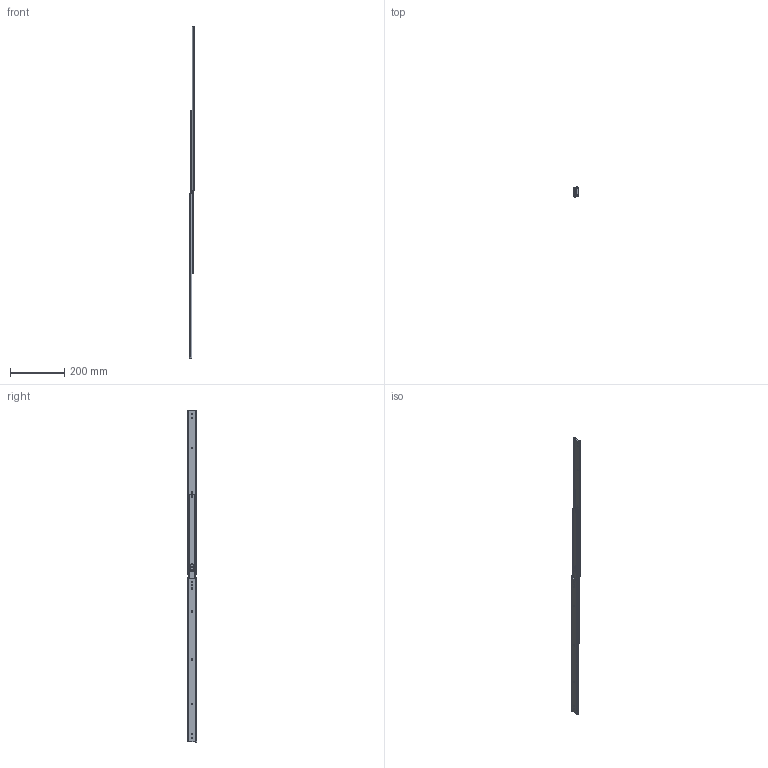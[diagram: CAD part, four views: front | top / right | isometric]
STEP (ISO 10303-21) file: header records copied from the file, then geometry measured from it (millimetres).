
FILE_DESCRIPTION (( 'STEP AP214' ), '1' );
FILE_NAME ('3560-600-open.STEP', '2024-08-20T05:32:10', ( '' ), ( '' ), 'SwSTEP 2.0', 'SolidWorks 2024', '' );
FILE_SCHEMA (( 'AUTOMOTIVE_DESIGN' ));
Length unit declared in the file: millimetre
Products named in the file (4): 3560-600-open; CAD_3560-600_TelescopicRailLight_Rollco.stp_Assem13; 26065P1-24''''.stp_Part25; 26065P3-24''''.stp_Part26
Assembly tree (5 placements, depth 3):
  3560-600-open
    CAD_3560-600_TelescopicRailLight_Rollco.stp_Assem13
      26065P1-24''''.stp_Part25  x2
      26065P3-24''''.stp_Part26  x2
Bounding box: 19.6 x 35.27 x 1229.2 mm (x, y, z)
Surface area: 200881.3 mm2 (no closed solid volume)
Topology: 0 solids, 4 shells, 306 faces, 882 edges, 584 vertices
Faces by surface type: cylinder 162, plane 144
Entity records: 6501 total; most frequent: CARTESIAN_POINT 3189, ORIENTED_EDGE 882, EDGE_CURVE 441, B_SPLINE_CURVE_WITH_KNOTS 428, DIRECTION 337, VERTEX_POINT 292, EDGE_LOOP 177, AXIS2_PLACEMENT_3D 162
